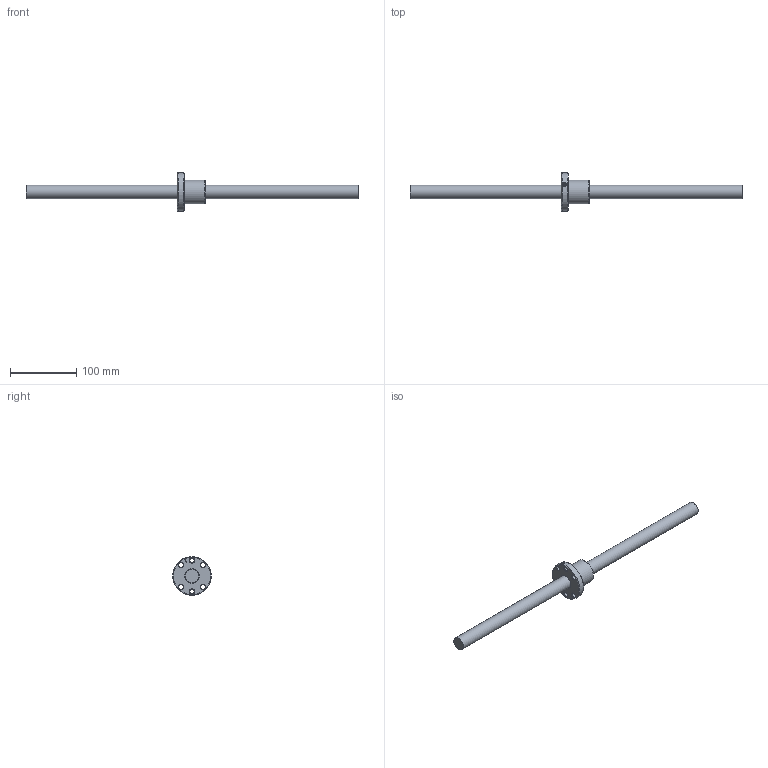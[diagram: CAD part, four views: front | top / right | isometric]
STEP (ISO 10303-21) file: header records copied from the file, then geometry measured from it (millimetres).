
FILE_DESCRIPTION (( 'STEP AP203' ), '1' );
FILE_NAME ('SFU02004N-4.step', '2024-05-14T06:01:01', ( '' ), ( '' ), 'SwSTEP 2.0', 'SolidWorks 2022', '' );
FILE_SCHEMA (( 'CONFIG_CONTROL_DESIGN' ));
Length unit declared in the file: millimetre
Products named in the file (1): SFU02004N-4
Bounding box: 500 x 58 x 58 mm (x, y, z)
Volume: 197740.5 mm3; surface area: 45662.7 mm2
Topology: 2 solids, 2 shells, 45 faces, 103 edges, 63 vertices
Faces by surface type: cylinder 18, cone 13, plane 6, bspline 5, torus 3
Full cylindrical faces by diameter (mm): 4 x1, 5 x6, 6.6 x6, 20 x1, 21.6 x1, 36 x1, 58 x1
Entity records: 2707 total; most frequent: CARTESIAN_POINT 1912, DIRECTION 148, ORIENTED_EDGE 102, EDGE_LOOP 84, AXIS2_PLACEMENT_3D 72, FACE_OUTER_BOUND 54, EDGE_CURVE 51, VERTEX_POINT 47
